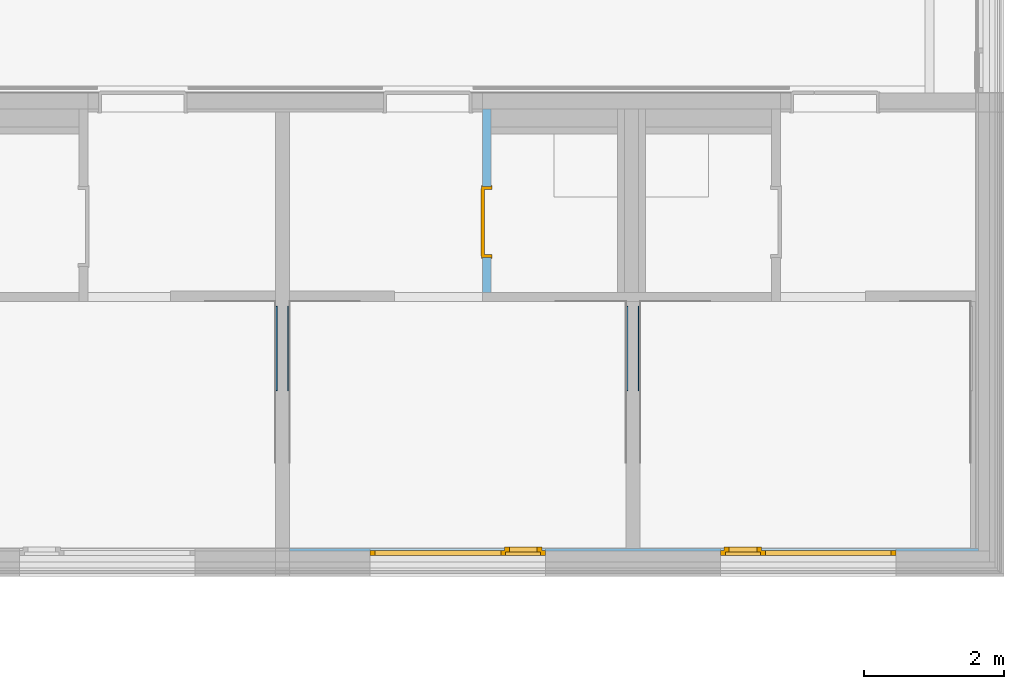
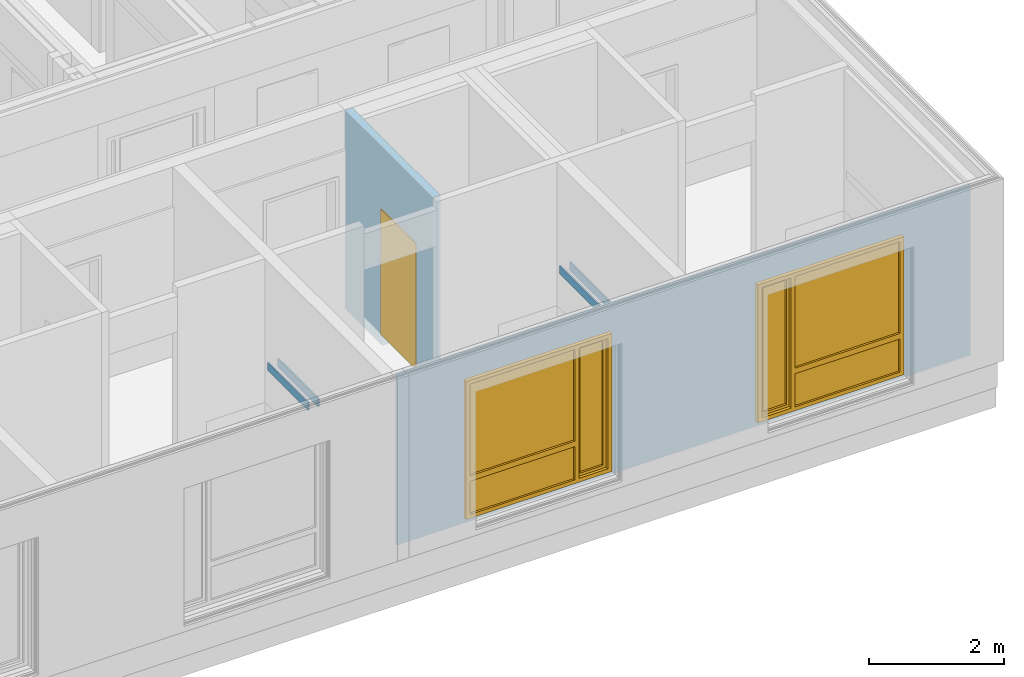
# One storey, part 137 of 207: 4 walls, 2 windows, 1 door, 3 openings, plus 2 elements that do not belong to this part.
"""IFC4 building model written with IfcOpenShell, lengths in metres."""

from ifc_helpers import new_model, entity, si_unit, converted_unit, derived_unit, frame, frame_2d, origin, origin_with_axes, place, context, subcontext, project, spatial, polyline, rectangle, outline, extrude, closed_shell, open_shell, faceted_brep, surface_model, source, transform, mapped, material, type_object, element, fill, save


model = new_model("IFC4")

# Units and contexts
model_context = context("Model", 3, precision=1e-05, world=origin())
body_context = subcontext(model_context, "Body", "Model", "MODEL_VIEW")
ifc_project = project(units=[si_unit("LENGTHUNIT", "METRE"), si_unit("AREAUNIT", "SQUARE_METRE"), si_unit("VOLUMEUNIT", "CUBIC_METRE"), si_unit("MASSUNIT", "GRAM", prefix="KILO"), converted_unit("PLANEANGLEUNIT", "DEGREE", entity("IfcPlaneAngleMeasure", 0.0174532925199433), si_unit("PLANEANGLEUNIT", "RADIAN"), dimensions=[0, 0, 0, 0, 0, 0, 0]), derived_unit("THERMALTRANSMITTANCEUNIT", [(si_unit("POWERUNIT", "WATT"), 1), (si_unit("THERMODYNAMICTEMPERATUREUNIT", "KELVIN"), -1), (si_unit("LENGTHUNIT", "METRE"), -2)]), derived_unit("VOLUMETRICFLOWRATEUNIT", [(si_unit("LENGTHUNIT", "METRE"), 3), (converted_unit("TIMEUNIT", "hour", entity("IfcTimeMeasure", 3600.0), si_unit("TIMEUNIT", "SECOND"), dimensions=[0, 0, 1, 0, 0, 0, 0]), -1), (si_unit("LENGTHUNIT", "METRE"), -1)])], contexts=[model_context])

# Site, building, storey
site_placement = place(None, origin())
site = spatial("IfcSite", under=ifc_project, at=site_placement, Name="Psychiatrie Neubau Wunstorf", CompositionType="ELEMENT")
building_placement = place(site_placement, origin())
building = spatial("IfcBuilding", under=site, at=building_placement, Name="Neubau H2 Stationsgebäude", CompositionType="ELEMENT")
storey_placement = place(building_placement, frame((0.0, 0.0, -0.2)))
storey = spatial("IfcBuildingStorey", under=building, at=storey_placement, Name="H2 Ebene 0", CompositionType="ELEMENT", Elevation=-0.2)

# Wall, openings, windows
ifc_material_1 = material(Name="WA-LB")
wall_1_placement = place(storey_placement, frame((105.925, -1.16399999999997, 0.5), z_axis=(0.0, 0.0, 1.0), x_axis=(-1.0, 0.0, 0.0)))
wall_1 = element("IfcWall", 1, at=wall_1_placement, inside=storey, material=ifc_material_1, context=body_context, shape_type="SweptSolid", body=[
    extrude(rectangle(XDim=9.82500000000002, YDim=0.036, at=frame_2d((4.91250000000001, 0.018), x_axis=(1.0, 0.0))), origin_with_axes(), (0.0, 0.0, 1.0), 3.1),
])
opening_1_placement = place(wall_1_placement, frame((6.17499995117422, 0.0, 0.1), z_axis=(0.0, 1.0, 0.0), x_axis=(0.0, 0.0, 1.0)))
opening_1 = element("IfcOpeningElement", 2, at=opening_1_placement, cuts=wall_1, Name="Fensteröffnung", ObjectType="Opening", context=body_context, shape_type="SweptSolid", body=[
    extrude(outline(polyline([(2.5, 2.5), (2.5, 0.0), (0.0, 0.0), (0.0, 2.5), (2.5, 2.5)])), origin_with_axes(), (0.0, 0.0, 1.0), 0.036),
])
opening_2_placement = place(wall_1_placement, frame((1.17499995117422, 0.0, 0.1), z_axis=(0.0, 1.0, 0.0), x_axis=(0.0, 0.0, 1.0)))
opening_2 = element("IfcOpeningElement", 3, at=opening_2_placement, cuts=wall_1, Name="Fensteröffnung", ObjectType="Opening", context=body_context, shape_type="SweptSolid", body=[
    extrude(outline(polyline([(2.5, 2.5), (2.5, 0.0), (0.0, 0.0), (0.0, 2.5), (2.5, 2.5)])), origin_with_axes(), (0.0, 0.0, 1.0), 0.036),
])
shared_shape_1 = source(origin_with_axes(), body_context, "Body", "SurfaceModel", [
    surface_model("IfcShellBasedSurfaceModel", [(0.0, 0.0, 2.5), (0.07, 0.0, 2.5), (0.07, 0.0, 0.0), (0.0, 0.0, 0.0), (0.0, 0.0699999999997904, 0.0), (0.07, 0.0699999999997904, 0.0), (0.07, 0.0699999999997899, 2.5), (0.0, 0.0699999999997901, 2.5)], [closed_shell([[[0, 1, 2, 3]], [[4, 5, 6, 7]], [[3, 4, 7, 0]], [[2, 5, 4, 3]], [[1, 6, 5, 2]], [[0, 7, 6, 1]]], orient=[[False], [False], [False], [False], [False], [False]])]),
    surface_model("IfcShellBasedSurfaceModel", [(2.43, 0.0, 2.5), (2.5, 0.0, 2.5), (2.5, 0.0, 0.0), (2.43, 0.0, 0.0), (2.43, 0.0699999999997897, 0.0), (2.5, 0.0699999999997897, 0.0), (2.5, 0.0699999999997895, 2.5), (2.43, 0.0699999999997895, 2.5)], [closed_shell([[[0, 1, 2, 3]], [[4, 5, 6, 7]], [[3, 4, 7, 0]], [[2, 5, 4, 3]], [[1, 6, 5, 2]], [[0, 7, 6, 1]]], orient=[[False], [False], [False], [False], [False], [False]])]),
    surface_model("IfcShellBasedSurfaceModel", [(0.07, 0.0, 0.07), (2.43, 0.0, 0.07), (2.43, 0.0, 0.0), (0.07, 0.0, 0.0), (0.07, 0.0699999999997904, 0.0), (2.43, 0.0699999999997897, 0.0), (2.43, 0.0699999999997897, 0.07), (0.07, 0.0699999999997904, 0.07)], [closed_shell([[[0, 1, 2, 3]], [[4, 5, 6, 7]], [[3, 4, 7, 0]], [[2, 5, 4, 3]], [[1, 6, 5, 2]], [[0, 7, 6, 1]]], orient=[[False], [False], [False], [False], [False], [False]])]),
    surface_model("IfcShellBasedSurfaceModel", [(0.07, 0.0, 2.5), (2.43, 0.0, 2.5), (2.43, 0.0, 2.43), (0.07, 0.0, 2.43), (0.07, 0.0699999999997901, 2.43), (2.43, 0.0699999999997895, 2.43), (2.43, 0.0699999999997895, 2.5), (0.07, 0.0699999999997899, 2.5)], [closed_shell([[[0, 1, 2, 3]], [[4, 5, 6, 7]], [[3, 4, 7, 0]], [[2, 5, 4, 3]], [[1, 6, 5, 2]], [[0, 7, 6, 1]]], orient=[[False], [False], [False], [False], [False], [False]])]),
    surface_model("IfcShellBasedSurfaceModel", [(0.565714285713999, 0.0, 2.43), (0.635714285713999, 0.0, 2.43), (0.635714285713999, 0.0, 0.07), (0.565714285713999, 0.0, 0.07), (0.565714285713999, 0.0699999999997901, 0.07), (0.635714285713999, 0.0699999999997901, 0.07), (0.635714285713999, 0.0699999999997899, 2.43), (0.565714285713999, 0.0699999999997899, 2.43)], [closed_shell([[[0, 1, 2, 3]], [[4, 5, 6, 7]], [[3, 4, 7, 0]], [[2, 5, 4, 3]], [[1, 6, 5, 2]], [[0, 7, 6, 1]]], orient=[[False], [False], [False], [False], [False], [False]])]),
    surface_model("IfcShellBasedSurfaceModel", [(0.05, -0.0500000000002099, 2.45), (0.12, -0.0500000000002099, 2.45), (0.12, -0.0500000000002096, 0.05), (0.05, -0.0500000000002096, 0.05), (0.05, 0.0199999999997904, 0.05), (0.12, 0.0199999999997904, 0.05), (0.12, 0.0199999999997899, 2.45), (0.05, 0.0199999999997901, 2.45)], [closed_shell([[[0, 1, 2, 3]], [[4, 5, 6, 7]], [[3, 4, 7, 0]], [[2, 5, 4, 3]], [[1, 6, 5, 2]], [[0, 7, 6, 1]]], orient=[[False], [False], [False], [False], [False], [False]])]),
    surface_model("IfcShellBasedSurfaceModel", [(0.515714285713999, -0.0500000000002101, 2.45), (0.585714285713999, -0.0500000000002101, 2.45), (0.585714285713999, -0.0500000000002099, 0.05), (0.515714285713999, -0.0500000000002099, 0.05), (0.515714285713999, 0.0199999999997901, 0.05), (0.585714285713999, 0.0199999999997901, 0.05), (0.585714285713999, 0.0199999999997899, 2.45), (0.515714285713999, 0.0199999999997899, 2.45)], [closed_shell([[[0, 1, 2, 3]], [[4, 5, 6, 7]], [[3, 4, 7, 0]], [[2, 5, 4, 3]], [[1, 6, 5, 2]], [[0, 7, 6, 1]]], orient=[[False], [False], [False], [False], [False], [False]])]),
    surface_model("IfcShellBasedSurfaceModel", [(0.12, -0.0500000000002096, 0.12), (0.515714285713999, -0.0500000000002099, 0.12), (0.515714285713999, -0.0500000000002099, 0.05), (0.12, -0.0500000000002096, 0.05), (0.12, 0.0199999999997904, 0.05), (0.515714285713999, 0.0199999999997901, 0.05), (0.515714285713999, 0.0199999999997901, 0.12), (0.12, 0.0199999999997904, 0.12)], [closed_shell([[[0, 1, 2, 3]], [[4, 5, 6, 7]], [[3, 4, 7, 0]], [[2, 5, 4, 3]], [[1, 6, 5, 2]], [[0, 7, 6, 1]]], orient=[[False], [False], [False], [False], [False], [False]])]),
    surface_model("IfcShellBasedSurfaceModel", [(0.12, -0.0500000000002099, 2.45), (0.515714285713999, -0.0500000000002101, 2.45), (0.515714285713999, -0.0500000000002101, 2.38), (0.12, -0.0500000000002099, 2.38), (0.12, 0.0199999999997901, 2.38), (0.515714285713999, 0.0199999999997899, 2.38), (0.515714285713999, 0.0199999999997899, 2.45), (0.12, 0.0199999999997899, 2.45)], [closed_shell([[[0, 1, 2, 3]], [[4, 5, 6, 7]], [[3, 4, 7, 0]], [[2, 5, 4, 3]], [[1, 6, 5, 2]], [[0, 7, 6, 1]]], orient=[[False], [False], [False], [False], [False], [False]])]),
    surface_model("IfcShellBasedSurfaceModel", [(0.635714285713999, 0.0, 0.77), (2.43, 0.0, 0.77), (2.43, 0.0, 0.67), (0.635714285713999, 0.0, 0.67), (0.635714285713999, 0.0699999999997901, 0.67), (2.43, 0.0699999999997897, 0.67), (2.43, 0.0699999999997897, 0.77), (0.635714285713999, 0.0699999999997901, 0.77)], [closed_shell([[[0, 1, 2, 3]], [[4, 5, 6, 7]], [[3, 4, 7, 0]], [[2, 5, 4, 3]], [[1, 6, 5, 2]], [[0, 7, 6, 1]]], orient=[[False], [False], [False], [False], [False], [False]])]),
    surface_model("IfcShellBasedSurfaceModel", [(0.12, -0.0150000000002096, 0.12), (0.12, -0.0150000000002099, 2.38), (0.515714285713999, -0.0150000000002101, 2.38), (0.515714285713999, -0.0150000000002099, 0.12)], [open_shell([[[0, 1, 2, 3]]], orient=[[False]])]),
    surface_model("IfcShellBasedSurfaceModel", [(0.635714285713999, 0.0349999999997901, 0.07), (0.635714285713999, 0.0349999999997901, 0.67), (2.43, 0.0349999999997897, 0.67), (2.43, 0.0349999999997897, 0.07)], [open_shell([[[0, 1, 2, 3]]], orient=[[False]])]),
    surface_model("IfcShellBasedSurfaceModel", [(0.635714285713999, 0.0349999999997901, 0.77), (0.635714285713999, 0.0349999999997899, 2.43), (2.43, 0.0349999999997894, 2.43), (2.43, 0.0349999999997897, 0.77)], [open_shell([[[0, 1, 2, 3]]], orient=[[False]])]),
])
window_1_placement = place(opening_1_placement, frame((0.0, 0.0, 0.03), z_axis=(1.0, 0.0, 0.0), x_axis=(0.0, 1.0, 0.0)))
window_1 = element("IfcWindow", 4, at=window_1_placement, inside=storey, Name="Fenster", OverallHeight=2.5, OverallWidth=2.5, PartitioningType="USERDEFINED", PredefinedType="WINDOW", context=body_context, shape_type="MappedRepresentation", body=[
    mapped(shared_shape_1, transform((0.0, 0.0, 0.0), x_axis=(1.0, 0.0, 0.0), y_axis=(0.0, 1.0, 0.0), z_axis=(0.0, 0.0, 1.0), scale=1.0)),
])
fill(opening_1, window_1)
shared_shape_2 = source(origin_with_axes(), body_context, "Body", "SurfaceModel", [
    surface_model("IfcShellBasedSurfaceModel", [(2.5, 0.0, 2.5), (2.5, 0.0, 0.0), (2.43, 0.0, 0.0), (2.43, 0.0, 2.5), (2.5, 0.0699999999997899, 0.0), (2.5, 0.0699999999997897, 2.5), (2.43, 0.0699999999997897, 2.5), (2.43, 0.0699999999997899, 0.0)], [closed_shell([[[0, 1, 2, 3]], [[4, 5, 6, 7]], [[1, 0, 5, 4]], [[2, 1, 4, 7]], [[3, 2, 7, 6]], [[0, 3, 6, 5]]], orient=[[False], [False], [False], [False], [False], [False]])]),
    surface_model("IfcShellBasedSurfaceModel", [(0.07, 0.0, 2.5), (0.07, 0.0, 0.0), (0.0, 0.0, 0.0), (0.0, 0.0, 2.5), (0.07, 0.0699999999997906, 0.0), (0.07, 0.0699999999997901, 2.5), (0.0, 0.0699999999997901, 2.5), (0.0, 0.0699999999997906, 0.0)], [closed_shell([[[0, 1, 2, 3]], [[4, 5, 6, 7]], [[1, 0, 5, 4]], [[2, 1, 4, 7]], [[3, 2, 7, 6]], [[0, 3, 6, 5]]], orient=[[False], [False], [False], [False], [False], [False]])]),
    surface_model("IfcShellBasedSurfaceModel", [(2.43, 0.0, 0.07), (2.43, 0.0, 0.0), (0.07, 0.0, 0.0), (0.07, 0.0, 0.07), (2.43, 0.0699999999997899, 0.0), (2.43, 0.0699999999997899, 0.07), (0.07, 0.0699999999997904, 0.07), (0.07, 0.0699999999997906, 0.0)], [closed_shell([[[0, 1, 2, 3]], [[4, 5, 6, 7]], [[1, 0, 5, 4]], [[2, 1, 4, 7]], [[3, 2, 7, 6]], [[0, 3, 6, 5]]], orient=[[False], [False], [False], [False], [False], [False]])]),
    surface_model("IfcShellBasedSurfaceModel", [(2.43, 0.0, 2.5), (2.43, 0.0, 2.43), (0.07, 0.0, 2.43), (0.07, 0.0, 2.5), (2.43, 0.0699999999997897, 2.43), (2.43, 0.0699999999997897, 2.5), (0.07, 0.0699999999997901, 2.5), (0.07, 0.0699999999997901, 2.43)], [closed_shell([[[0, 1, 2, 3]], [[4, 5, 6, 7]], [[1, 0, 5, 4]], [[2, 1, 4, 7]], [[3, 2, 7, 6]], [[0, 3, 6, 5]]], orient=[[False], [False], [False], [False], [False], [False]])]),
    surface_model("IfcShellBasedSurfaceModel", [(1.934285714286, 0.0, 2.43), (1.934285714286, 0.0, 0.07), (1.864285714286, 0.0, 0.07), (1.864285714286, 0.0, 2.43), (1.934285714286, 0.0699999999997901, 0.07), (1.934285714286, 0.0699999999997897, 2.43), (1.864285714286, 0.0699999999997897, 2.43), (1.864285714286, 0.0699999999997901, 0.07)], [closed_shell([[[0, 1, 2, 3]], [[4, 5, 6, 7]], [[1, 0, 5, 4]], [[2, 1, 4, 7]], [[3, 2, 7, 6]], [[0, 3, 6, 5]]], orient=[[False], [False], [False], [False], [False], [False]])]),
    surface_model("IfcShellBasedSurfaceModel", [(2.45, -0.0500000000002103, 2.45), (2.45, -0.0500000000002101, 0.05), (2.38, -0.0500000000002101, 0.05), (2.38, -0.0500000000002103, 2.45), (2.45, 0.0199999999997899, 0.05), (2.45, 0.0199999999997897, 2.45), (2.38, 0.0199999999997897, 2.45), (2.38, 0.0199999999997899, 0.05)], [closed_shell([[[0, 1, 2, 3]], [[4, 5, 6, 7]], [[1, 0, 5, 4]], [[2, 1, 4, 7]], [[3, 2, 7, 6]], [[0, 3, 6, 5]]], orient=[[False], [False], [False], [False], [False], [False]])]),
    surface_model("IfcShellBasedSurfaceModel", [(1.984285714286, -0.0500000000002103, 2.45), (1.984285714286, -0.0500000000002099, 0.05), (1.914285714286, -0.0500000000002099, 0.05), (1.914285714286, -0.0500000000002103, 2.45), (1.984285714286, 0.0199999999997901, 0.05), (1.984285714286, 0.0199999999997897, 2.45), (1.914285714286, 0.0199999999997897, 2.45), (1.914285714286, 0.0199999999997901, 0.05)], [closed_shell([[[0, 1, 2, 3]], [[4, 5, 6, 7]], [[1, 0, 5, 4]], [[2, 1, 4, 7]], [[3, 2, 7, 6]], [[0, 3, 6, 5]]], orient=[[False], [False], [False], [False], [False], [False]])]),
    surface_model("IfcShellBasedSurfaceModel", [(2.38, -0.0500000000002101, 0.12), (2.38, -0.0500000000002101, 0.05), (1.984285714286, -0.0500000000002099, 0.05), (1.984285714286, -0.0500000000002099, 0.12), (2.38, 0.0199999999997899, 0.05), (2.38, 0.0199999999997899, 0.12), (1.984285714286, 0.0199999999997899, 0.12), (1.984285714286, 0.0199999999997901, 0.05)], [closed_shell([[[0, 1, 2, 3]], [[4, 5, 6, 7]], [[1, 0, 5, 4]], [[2, 1, 4, 7]], [[3, 2, 7, 6]], [[0, 3, 6, 5]]], orient=[[False], [False], [False], [False], [False], [False]])]),
    surface_model("IfcShellBasedSurfaceModel", [(2.38, -0.0500000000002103, 2.45), (2.38, -0.0500000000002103, 2.38), (1.984285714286, -0.0500000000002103, 2.38), (1.984285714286, -0.0500000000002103, 2.45), (2.38, 0.0199999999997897, 2.38), (2.38, 0.0199999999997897, 2.45), (1.984285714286, 0.0199999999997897, 2.45), (1.984285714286, 0.0199999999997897, 2.38)], [closed_shell([[[0, 1, 2, 3]], [[4, 5, 6, 7]], [[1, 0, 5, 4]], [[2, 1, 4, 7]], [[3, 2, 7, 6]], [[0, 3, 6, 5]]], orient=[[False], [False], [False], [False], [False], [False]])]),
    surface_model("IfcShellBasedSurfaceModel", [(1.864285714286, 0.0, 0.77), (1.864285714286, 0.0, 0.67), (0.07, 0.0, 0.67), (0.07, 0.0, 0.77), (1.864285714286, 0.0699999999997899, 0.67), (1.864285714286, 0.0699999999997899, 0.77), (0.07, 0.0699999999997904, 0.77), (0.07, 0.0699999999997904, 0.67)], [closed_shell([[[0, 1, 2, 3]], [[4, 5, 6, 7]], [[1, 0, 5, 4]], [[2, 1, 4, 7]], [[3, 2, 7, 6]], [[0, 3, 6, 5]]], orient=[[False], [False], [False], [False], [False], [False]])]),
    surface_model("IfcShellBasedSurfaceModel", [(2.38, -0.0150000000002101, 0.12), (1.984285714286, -0.0150000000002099, 0.12), (1.984285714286, -0.0150000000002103, 2.38), (2.38, -0.0150000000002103, 2.38)], [open_shell([[[0, 1, 2, 3]]], orient=[[False]])]),
    surface_model("IfcShellBasedSurfaceModel", [(1.864285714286, 0.0349999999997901, 0.07), (0.07, 0.0349999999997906, 0.07), (0.07, 0.0349999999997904, 0.67), (1.864285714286, 0.0349999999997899, 0.67)], [open_shell([[[0, 1, 2, 3]]], orient=[[False]])]),
    surface_model("IfcShellBasedSurfaceModel", [(1.864285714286, 0.0349999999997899, 0.77), (0.07, 0.0349999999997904, 0.77), (0.07, 0.0349999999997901, 2.43), (1.864285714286, 0.0349999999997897, 2.43)], [open_shell([[[0, 1, 2, 3]]], orient=[[False]])]),
])
window_2_placement = place(opening_2_placement, frame((0.0, 0.0, 0.03), z_axis=(1.0, 0.0, 0.0), x_axis=(0.0, 1.0, 0.0)))
window_2 = element("IfcWindow", 5, at=window_2_placement, inside=storey, Name="Fenster", OverallHeight=2.5, OverallWidth=2.5, PartitioningType="USERDEFINED", PredefinedType="WINDOW", context=body_context, shape_type="MappedRepresentation", body=[
    mapped(shared_shape_2, transform((0.0, 0.0, 0.0), x_axis=(1.0, 0.0, 0.0), y_axis=(0.0, 1.0, 0.0), z_axis=(0.0, 0.0, 1.0), scale=1.0)),
])
fill(opening_2, window_2)

# Walls
for number, where, name in (
    (6, (96.075, 1.08720000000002, 1.625), "WV 1.1"),
    (7, (101.075, 1.08720000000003, 1.625), "WV 1.1"),
    (8, (100.9, 1.08720000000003, 1.625), "WV 1.1"),
    (9, (95.9, 1.08720000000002, 1.625), "WV 1.1"),
):
    element("IfcWall", number, at=place(storey_placement, frame(where)), inside=storey, Name=name, context=body_context, shape_type="Brep", body=[
        faceted_brep([(0.025, 1.2, 0.0), (0.0, 1.2, 0.0), (0.0, 0.0, 0.0), (0.025, 0.0, 0.0), (0.0, 1.2, 0.15), (0.025, 1.2, 0.15), (0.025, 0.0, 0.15), (0.0, 0.0, 0.15)], [[[0, 1, 2, 3]], [[4, 5, 6, 7]], [[1, 0, 5, 4]], [[2, 1, 4, 7]], [[3, 2, 7, 6]], [[0, 3, 6, 5]]], orient=[[False], [False], [False], [False], [False], [False]]),
    ])

# Wall, opening, door
ifc_material_2 = material(Name="WI-LB")
wall_2_placement = place(storey_placement, frame((98.85, 5.1005, 0.0), z_axis=(0.0, 0.0, 1.0), x_axis=(0.0, -1.0, 0.0)))
wall_2 = element("IfcWall", 10, at=wall_2_placement, inside=storey, material=ifc_material_2, context=body_context, shape_type="SweptSolid", body=[
    extrude(rectangle(XDim=2.615, YDim=0.125, at=frame_2d((1.3075, 0.0625), x_axis=(1.0, 0.0))), origin_with_axes(), (0.0, 0.0, 1.0), 3.6),
])
opening_3_placement = place(wall_2_placement, frame((2.115, 0.125, 0.0), z_axis=(0.0, -1.0, 0.0), x_axis=(0.0, 0.0, 1.0)))
opening_3 = element("IfcOpeningElement", 11, at=opening_3_placement, cuts=wall_2, Name="Türöffnung", ObjectType="Opening", context=body_context, shape_type="SweptSolid", body=[
    extrude(outline(polyline([(2.46, 1.01), (2.46, 0.0), (0.0, 0.0), (0.0, 1.01), (2.46, 1.01)])), origin_with_axes(), (0.0, 0.0, 1.0), 0.125),
])
ifc_material_3 = material(Name="TI-1F-UZ-D-N")
door_type = type_object("IfcDoorType", Name="SMT", OperationType="SINGLE_SWING_RIGHT", ParameterTakesPrecedence=False, PredefinedType="DOOR")
shared_shape_3 = source(origin_with_axes(), body_context, "Body", "Brep", [
    faceted_brep([(1.05, 0.0125000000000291, 0.0), (1.05, 0.112500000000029, 0.0), (1.01, 0.112500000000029, 0.0), (1.01, 0.0125000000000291, 0.0), (1.05, 0.112500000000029, 3.6), (1.05, 0.0125000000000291, 3.6), (1.01, 0.0125000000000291, 3.6), (1.01, 0.112500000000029, 3.6)], [[[0, 1, 2, 3]], [[4, 5, 6, 7]], [[1, 0, 5, 4]], [[2, 1, 4, 7]], [[3, 2, 7, 6]], [[0, 3, 6, 5]]], orient=[[False], [False], [False], [False], [False], [False]]),
    faceted_brep([(0.0, 0.0125000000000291, 0.0), (0.0, 0.112500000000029, 0.0), (-0.0400000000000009, 0.112500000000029, 0.0), (-0.0400000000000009, 0.0125000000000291, 0.0), (0.0, 0.112500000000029, 3.6), (0.0, 0.0125000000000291, 3.6), (-0.0400000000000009, 0.0125000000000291, 3.6), (-0.0400000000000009, 0.112500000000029, 3.6)], [[[0, 1, 2, 3]], [[4, 5, 6, 7]], [[1, 0, 5, 4]], [[2, 1, 4, 7]], [[3, 2, 7, 6]], [[0, 3, 6, 5]]], orient=[[False], [False], [False], [False], [False], [False]]),
    faceted_brep([(1.01, 0.0125000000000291, 2.46), (1.01, 0.112500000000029, 2.46), (0.0, 0.112500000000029, 2.46), (0.0, 0.0125000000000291, 2.46), (1.01, 0.112500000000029, 2.5), (1.01, 0.0125000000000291, 2.5), (0.0, 0.0125000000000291, 2.5), (0.0, 0.112500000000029, 2.5)], [[[0, 1, 2, 3]], [[4, 5, 6, 7]], [[1, 0, 5, 4]], [[2, 1, 4, 7]], [[3, 2, 7, 6]], [[0, 3, 6, 5]]], orient=[[False], [False], [False], [False], [False], [False]]),
])
shared_shape_4 = source(origin_with_axes(), body_context, "Body", "Brep", [
    faceted_brep([(1.01, -0.0149999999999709, 2.46), (1.01, -0.0149999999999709, 0.2), (0.969999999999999, -0.0149999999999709, 0.2), (0.969999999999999, -0.0149999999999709, 2.46), (1.01, 0.140000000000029, 0.2), (1.01, 0.140000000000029, 2.46), (0.969999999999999, 0.140000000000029, 2.46), (0.969999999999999, 0.140000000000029, 0.2)], [[[0, 1, 2, 3]], [[4, 5, 6, 7]], [[1, 0, 5, 4]], [[2, 1, 4, 7]], [[3, 2, 7, 6]], [[0, 3, 6, 5]]], orient=[[False], [False], [False], [False], [False], [False]]),
    faceted_brep([(1.01, -0.0149999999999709, 2.475), (1.025, -0.0149999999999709, 2.475), (1.025, -0.0149999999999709, 0.2), (1.01, -0.0149999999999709, 0.2), (1.01, 0.0, 0.2), (1.025, 0.0, 0.2), (1.025, 0.0, 2.475), (1.01, 0.0, 2.475)], [[[0, 1, 2, 3]], [[4, 5, 6, 7]], [[3, 4, 7, 0]], [[2, 5, 4, 3]], [[1, 6, 5, 2]], [[0, 7, 6, 1]]], orient=[[False], [False], [False], [False], [False], [False]]),
    faceted_brep([(1.01, 0.125000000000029, 2.475), (1.025, 0.125000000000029, 2.475), (1.025, 0.125000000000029, 0.2), (1.01, 0.125000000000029, 0.2), (1.01, 0.140000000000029, 0.2), (1.025, 0.140000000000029, 0.2), (1.025, 0.140000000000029, 2.475), (1.01, 0.140000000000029, 2.475)], [[[0, 1, 2, 3]], [[4, 5, 6, 7]], [[3, 4, 7, 0]], [[2, 5, 4, 3]], [[1, 6, 5, 2]], [[0, 7, 6, 1]]], orient=[[False], [False], [False], [False], [False], [False]]),
    faceted_brep([(0.0399999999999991, -0.0149999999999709, 2.46), (0.0399999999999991, -0.0149999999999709, 0.2), (0.0, -0.0149999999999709, 0.2), (0.0, -0.0149999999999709, 2.46), (0.0399999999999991, 0.140000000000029, 0.2), (0.0399999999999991, 0.140000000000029, 2.46), (0.0, 0.140000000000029, 2.46), (0.0, 0.140000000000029, 0.2)], [[[0, 1, 2, 3]], [[4, 5, 6, 7]], [[1, 0, 5, 4]], [[2, 1, 4, 7]], [[3, 2, 7, 6]], [[0, 3, 6, 5]]], orient=[[False], [False], [False], [False], [False], [False]]),
    faceted_brep([(0.0, -0.0149999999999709, 2.475), (0.0, -0.0149999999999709, 0.2), (-0.0150000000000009, -0.0149999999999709, 0.2), (-0.0150000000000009, -0.0149999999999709, 2.475), (0.0, 0.0, 0.2), (0.0, 0.0, 2.475), (-0.0150000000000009, 0.0, 2.475), (-0.0150000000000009, 0.0, 0.2)], [[[0, 1, 2, 3]], [[4, 5, 6, 7]], [[1, 0, 5, 4]], [[2, 1, 4, 7]], [[3, 2, 7, 6]], [[0, 3, 6, 5]]], orient=[[False], [False], [False], [False], [False], [False]]),
    faceted_brep([(0.0, 0.125000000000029, 2.475), (0.0, 0.125000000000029, 0.2), (-0.0150000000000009, 0.125000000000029, 0.2), (-0.0150000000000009, 0.125000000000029, 2.475), (0.0, 0.140000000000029, 0.2), (0.0, 0.140000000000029, 2.475), (-0.0150000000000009, 0.140000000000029, 2.475), (-0.0150000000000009, 0.140000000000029, 0.2)], [[[0, 1, 2, 3]], [[4, 5, 6, 7]], [[1, 0, 5, 4]], [[2, 1, 4, 7]], [[3, 2, 7, 6]], [[0, 3, 6, 5]]], orient=[[False], [False], [False], [False], [False], [False]]),
    faceted_brep([(0.969999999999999, -0.0149999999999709, 2.46), (0.969999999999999, -0.0149999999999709, 2.42), (0.0399999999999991, -0.0149999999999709, 2.42), (0.0399999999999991, -0.0149999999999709, 2.46), (0.969999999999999, 0.140000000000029, 2.42), (0.969999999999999, 0.140000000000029, 2.46), (0.0399999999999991, 0.140000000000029, 2.46), (0.0399999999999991, 0.140000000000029, 2.42)], [[[0, 1, 2, 3]], [[4, 5, 6, 7]], [[1, 0, 5, 4]], [[2, 1, 4, 7]], [[3, 2, 7, 6]], [[0, 3, 6, 5]]], orient=[[False], [False], [False], [False], [False], [False]]),
    faceted_brep([(1.01, -0.0149999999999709, 2.475), (1.01, -0.0149999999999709, 2.46), (0.0, -0.0149999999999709, 2.46), (0.0, -0.0149999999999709, 2.475), (1.01, 0.0, 2.46), (1.01, 0.0, 2.475), (0.0, 0.0, 2.475), (0.0, 0.0, 2.46)], [[[0, 1, 2, 3]], [[4, 5, 6, 7]], [[1, 0, 5, 4]], [[2, 1, 4, 7]], [[3, 2, 7, 6]], [[0, 3, 6, 5]]], orient=[[False], [False], [False], [False], [False], [False]]),
    faceted_brep([(1.01, 0.125000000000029, 2.475), (1.01, 0.125000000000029, 2.46), (0.0, 0.125000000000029, 2.46), (0.0, 0.125000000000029, 2.475), (1.01, 0.140000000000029, 2.46), (1.01, 0.140000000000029, 2.475), (0.0, 0.140000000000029, 2.475), (0.0, 0.140000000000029, 2.46)], [[[0, 1, 2, 3]], [[4, 5, 6, 7]], [[1, 0, 5, 4]], [[2, 1, 4, 7]], [[3, 2, 7, 6]], [[0, 3, 6, 5]]], orient=[[False], [False], [False], [False], [False], [False]]),
    faceted_brep([(0.984999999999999, 0.0910000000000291, 2.435), (0.984999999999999, 0.0910000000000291, 0.2), (0.0249999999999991, 0.0910000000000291, 0.2), (0.0249999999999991, 0.0910000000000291, 2.435), (0.984999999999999, 0.141000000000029, 0.2), (0.984999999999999, 0.141000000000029, 2.435), (0.0249999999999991, 0.141000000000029, 2.435), (0.0249999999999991, 0.141000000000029, 0.2)], [[[0, 1, 2, 3]], [[4, 5, 6, 7]], [[1, 0, 5, 4]], [[2, 1, 4, 7]], [[3, 2, 7, 6]], [[0, 3, 6, 5]]], orient=[[False], [False], [False], [False], [False], [False]]),
])
door_placement = place(opening_3_placement, frame((0.0, 0.0, 0.0), z_axis=(1.0, 0.0, 0.0), x_axis=(0.0, 1.0, 0.0)))
door = element("IfcDoor", 12, at=door_placement, inside=storey, type_object=door_type, material=ifc_material_3, Name="SMT", OverallHeight=2.46, OverallWidth=1.01, context=body_context, shape_type="MappedRepresentation", body=[
    mapped(shared_shape_3, transform((0.0, 0.0, 0.0), x_axis=(1.0, 0.0, 0.0), y_axis=(0.0, 1.0, 0.0), z_axis=(0.0, 0.0, 1.0), scale=1.0)),
    mapped(shared_shape_4, transform((0.0, 0.0, 0.0), x_axis=(1.0, 0.0, 0.0), y_axis=(0.0, 1.0, 0.0), z_axis=(0.0, 0.0, 1.0), scale=1.0)),
])
fill(opening_3, door)

save(model, "model.ifc")
